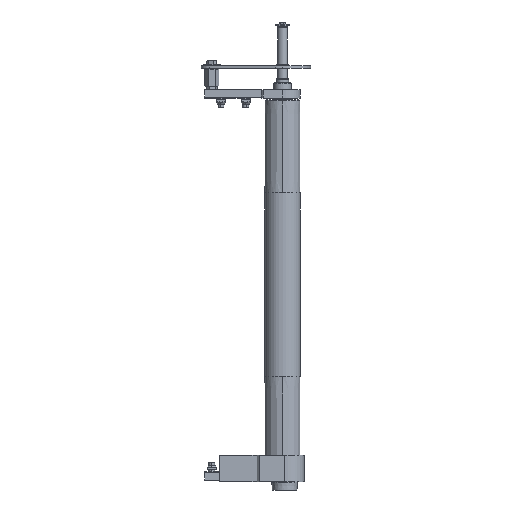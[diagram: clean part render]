
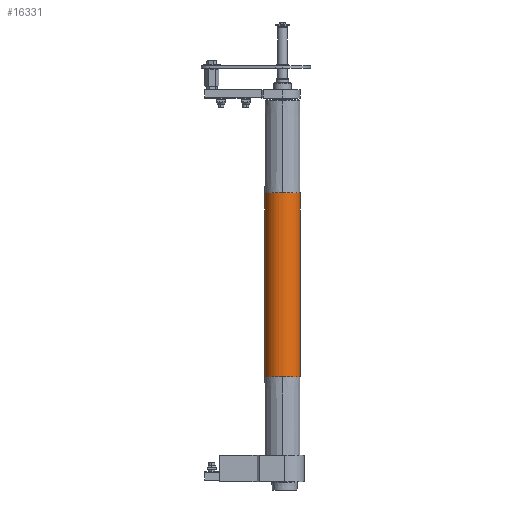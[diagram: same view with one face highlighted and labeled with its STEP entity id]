
A CAD part, front view. The second image highlights one B-rep face of the part: STEP entity #16331.
In plain terms, the highlighted cylindrical face has radius 25 mm (diameter 50 mm), a partial arc.
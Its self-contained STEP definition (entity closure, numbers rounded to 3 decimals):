
#632 = CARTESIAN_POINT ( 'NONE',  ( -130., 25., 0. ) ) ;
#1191 = CARTESIAN_POINT ( 'NONE',  ( 130., 25., 0. ) ) ;
#1224 = LINE ( 'NONE', #18745, #15161 ) ;
#1854 = ORIENTED_EDGE ( 'NONE', *, *, #12068, .T. ) ;
#1999 = DIRECTION ( 'NONE',  ( -1., 0., 0. ) ) ;
#2251 = AXIS2_PLACEMENT_3D ( 'NONE', #6833, #3451, #3381 ) ;
#3381 = DIRECTION ( 'NONE',  ( 0., -1., 0. ) ) ;
#3451 = DIRECTION ( 'NONE',  ( -1., 0., 0. ) ) ;
#3536 = FACE_OUTER_BOUND ( 'NONE', #4629, .T. ) ;
#3736 = EDGE_CURVE ( 'NONE', #10248, #11856, #1224, .T. ) ;
#4629 = EDGE_LOOP ( 'NONE', ( #11978, #1854, #13711, #5945, #21604, #6357 ) ) ;
#5555 = EDGE_CURVE ( 'NONE', #21921, #15077, #6789, .T. ) ;
#5696 = DIRECTION ( 'NONE',  ( -1., 0., 0. ) ) ;
#5945 = ORIENTED_EDGE ( 'NONE', *, *, #5555, .F. ) ;
#6357 = ORIENTED_EDGE ( 'NONE', *, *, #3736, .F. ) ;
#6789 = CIRCLE ( 'NONE', #12751, 25. ) ;
#6833 = CARTESIAN_POINT ( 'NONE',  ( 130., 0., 0. ) ) ;
#7284 = VERTEX_POINT ( 'NONE', #10319 ) ;
#7648 = DIRECTION ( 'NONE',  ( 0., -1., 0. ) ) ;
#9116 = CARTESIAN_POINT ( 'NONE',  ( -130., 0., 0. ) ) ;
#9244 = VERTEX_POINT ( 'NONE', #1191 ) ;
#9292 = DIRECTION ( 'NONE',  ( -1., 0., 0. ) ) ;
#9776 = VECTOR ( 'NONE', #1999, 1000. ) ;
#9895 = CARTESIAN_POINT ( 'NONE',  ( 130., 0., 0. ) ) ;
#10005 = EDGE_CURVE ( 'NONE', #11856, #21921, #11827, .T. ) ;
#10248 = VERTEX_POINT ( 'NONE', #20316 ) ;
#10319 = CARTESIAN_POINT ( 'NONE',  ( 130., 0., -25. ) ) ;
#10956 = CARTESIAN_POINT ( 'NONE',  ( 260., 0., -25. ) ) ;
#11334 = DIRECTION ( 'NONE',  ( -1., 0., 0. ) ) ;
#11827 = CIRCLE ( 'NONE', #16449, 25. ) ;
#11856 = VERTEX_POINT ( 'NONE', #15548 ) ;
#11978 = ORIENTED_EDGE ( 'NONE', *, *, #12933, .T. ) ;
#12068 = EDGE_CURVE ( 'NONE', #9244, #7284, #16827, .T. ) ;
#12751 = AXIS2_PLACEMENT_3D ( 'NONE', #9116, #5696, #14481 ) ;
#12933 = EDGE_CURVE ( 'NONE', #10248, #9244, #19022, .T. ) ;
#12994 = CARTESIAN_POINT ( 'NONE',  ( 260., 0., 0. ) ) ;
#13711 = ORIENTED_EDGE ( 'NONE', *, *, #20512, .T. ) ;
#13941 = CARTESIAN_POINT ( 'NONE',  ( -130., 0., -25. ) ) ;
#14481 = DIRECTION ( 'NONE',  ( 0., -1., 0. ) ) ;
#14499 = LINE ( 'NONE', #10956, #9776 ) ;
#15077 = VERTEX_POINT ( 'NONE', #13941 ) ;
#15161 = VECTOR ( 'NONE', #11334, 1000. ) ;
#15548 = CARTESIAN_POINT ( 'NONE',  ( -130., 0., 25. ) ) ;
#16331 = ADVANCED_FACE ( 'NONE', ( #3536 ), #21884, .T. ) ;
#16436 = CARTESIAN_POINT ( 'NONE',  ( -130., 0., 0. ) ) ;
#16449 = AXIS2_PLACEMENT_3D ( 'NONE', #16436, #9292, #7648 ) ;
#16827 = CIRCLE ( 'NONE', #18673, 25. ) ;
#18487 = DIRECTION ( 'NONE',  ( -1., 0., 0. ) ) ;
#18673 = AXIS2_PLACEMENT_3D ( 'NONE', #9895, #19006, #20699 ) ;
#18745 = CARTESIAN_POINT ( 'NONE',  ( 260., 0., 25. ) ) ;
#19006 = DIRECTION ( 'NONE',  ( -1., 0., 0. ) ) ;
#19022 = CIRCLE ( 'NONE', #2251, 25. ) ;
#20316 = CARTESIAN_POINT ( 'NONE',  ( 130., 0., 25. ) ) ;
#20365 = AXIS2_PLACEMENT_3D ( 'NONE', #12994, #18487, #21842 ) ;
#20512 = EDGE_CURVE ( 'NONE', #7284, #15077, #14499, .T. ) ;
#20699 = DIRECTION ( 'NONE',  ( 0., -1., 0. ) ) ;
#21604 = ORIENTED_EDGE ( 'NONE', *, *, #10005, .F. ) ;
#21842 = DIRECTION ( 'NONE',  ( 0., 0., 1. ) ) ;
#21884 = CYLINDRICAL_SURFACE ( 'NONE', #20365, 25. ) ;
#21921 = VERTEX_POINT ( 'NONE', #632 ) ;
